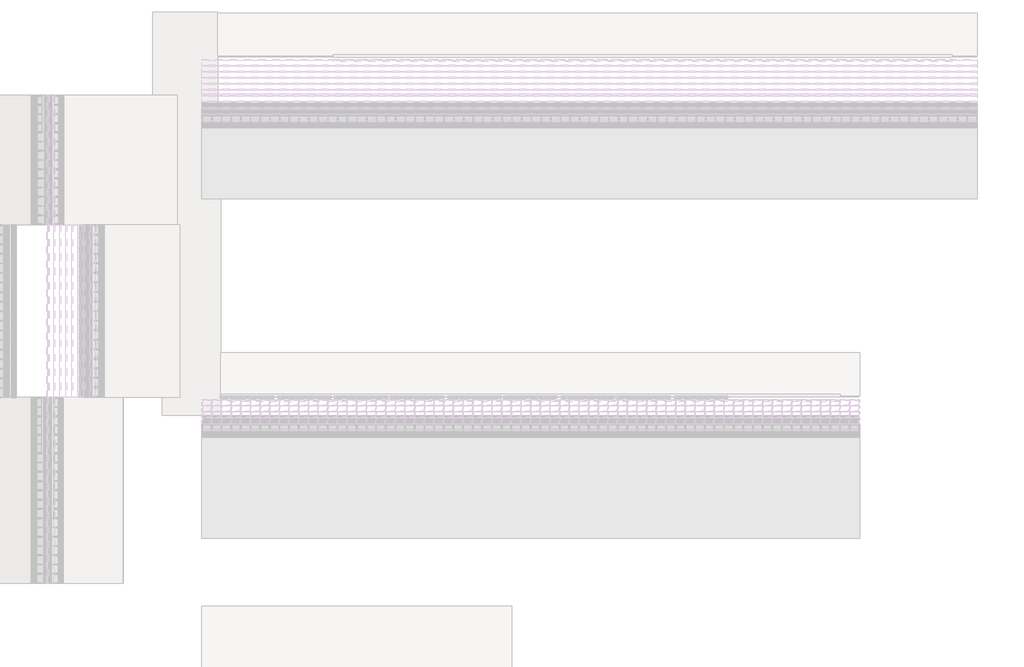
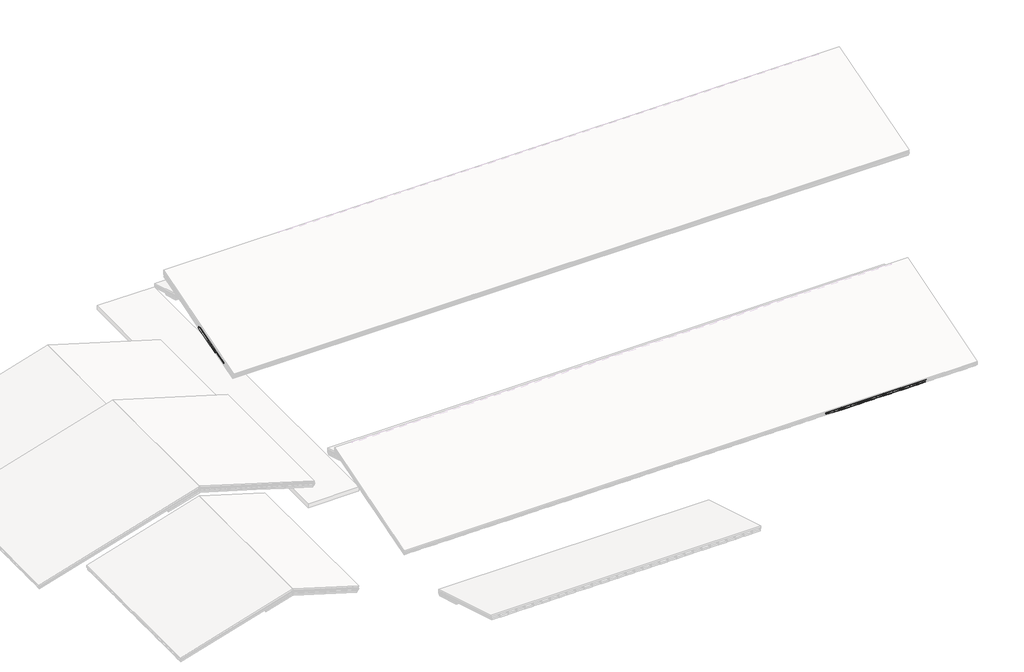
# One storey, part 43 of 57: 71 members, 53 plates.
"""IFC4 building model written with IfcOpenShell, lengths in millimetres."""

from ifc_helpers import new_model, si_unit, origin, place, context, project, spatial, transform, mapped, element, save
from components import rectangular_mullion_59984080, rectangular_mullion_e3e5c75d, rectangular_mullion_883ae41b, rectangular_mullion_caibro_e4384bba, empty_system_panel_vazio_178faf58, empty_system_panel_vazio_2c78850d, empty_system_panel_vazio_e755573b, empty_system_panel_vazio_700aa425

model = new_model("IFC4")

# Units and contexts
model_context = context("Model", 3, world=origin())
ifc_project = project(units=[si_unit("LENGTHUNIT", "METRE", prefix="MILLI")], contexts=[model_context])

# Site, building, storey
site = spatial("IfcSite", under=ifc_project)
building = spatial("IfcBuilding", under=site)
storey = spatial("IfcBuildingStorey", under=building, Name="Nível 2", Elevation=4100.0)

# Members
placement = place(None, origin())
rectangular_mullion_shape = rectangular_mullion_59984080(model_context)
element("IfcMember", 1, ObjectType="Rectangular Mullion : Ripa", at=placement, inside=storey, context=model_context, shape_type="MappedRepresentation", body=[
    mapped(rectangular_mullion_shape, transform((32226.4732298, 7422.2287521, 3376.7178042), x_axis=(0.0, 0.9578262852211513, 0.2873478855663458), y_axis=(0.0, 0.2873478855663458, -0.9578262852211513), z_axis=(-1.0, 0.0, 0.0))),
])
element("IfcMember", 2, ObjectType="Rectangular Mullion : Ripa", at=placement, inside=storey, context=model_context, shape_type="MappedRepresentation", body=[
    mapped(rectangular_mullion_shape, transform((32823.5279863, 7422.2287521, 3376.7178042), x_axis=(0.0, 0.9578262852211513, 0.2873478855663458), y_axis=(0.0, 0.2873478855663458, -0.9578262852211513), z_axis=(-1.0, 0.0, 0.0))),
])
element("IfcMember", 3, ObjectType="Rectangular Mullion : Ripa", at=placement, inside=storey, context=model_context, shape_type="MappedRepresentation", body=[
    mapped(rectangular_mullion_shape, transform((33420.5827427, 7422.2287521, 3376.7178042), x_axis=(0.0, 0.9578262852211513, 0.2873478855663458), y_axis=(0.0, 0.2873478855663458, -0.9578262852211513), z_axis=(-1.0, 0.0, 0.0))),
])
element("IfcMember", 4, ObjectType="Rectangular Mullion : Ripa", at=placement, inside=storey, context=model_context, shape_type="MappedRepresentation", body=[
    mapped(rectangular_mullion_shape, transform((34017.6374991, 7422.2287521, 3376.7178042), x_axis=(0.0, 0.9578262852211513, 0.2873478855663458), y_axis=(0.0, 0.2873478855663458, -0.9578262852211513), z_axis=(-1.0, 0.0, 0.0))),
])
element("IfcMember", 5, ObjectType="Rectangular Mullion : Ripa", at=placement, inside=storey, context=model_context, shape_type="MappedRepresentation", body=[
    mapped(rectangular_mullion_shape, transform((34614.6922555, 7422.2287521, 3376.7178042), x_axis=(0.0, 0.9578262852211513, 0.2873478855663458), y_axis=(0.0, 0.2873478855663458, -0.9578262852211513), z_axis=(-1.0, 0.0, 0.0))),
])
element("IfcMember", 6, ObjectType="Rectangular Mullion : Ripa", at=placement, inside=storey, context=model_context, shape_type="MappedRepresentation", body=[
    mapped(rectangular_mullion_shape, transform((35211.747012, 7422.2287521, 3376.7178042), x_axis=(0.0, 0.9578262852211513, 0.2873478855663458), y_axis=(0.0, 0.2873478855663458, -0.9578262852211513), z_axis=(-1.0, 0.0, 0.0))),
])
element("IfcMember", 7, ObjectType="Rectangular Mullion : Ripa", at=placement, inside=storey, context=model_context, shape_type="MappedRepresentation", body=[
    mapped(rectangular_mullion_shape, transform((35808.8017684, 7422.2287521, 3376.7178042), x_axis=(0.0, 0.9578262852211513, 0.2873478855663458), y_axis=(0.0, 0.2873478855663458, -0.9578262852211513), z_axis=(-1.0, 0.0, 0.0))),
])
element("IfcMember", 8, ObjectType="Rectangular Mullion : Ripa", at=placement, inside=storey, context=model_context, shape_type="MappedRepresentation", body=[
    mapped(rectangular_mullion_shape, transform((36405.8565248, 7422.2287521, 3376.7178042), x_axis=(0.0, 0.9578262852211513, 0.2873478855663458), y_axis=(0.0, 0.2873478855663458, -0.9578262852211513), z_axis=(-1.0, 0.0, 0.0))),
])
element("IfcMember", 9, ObjectType="Rectangular Mullion : Ripa", at=placement, inside=storey, context=model_context, shape_type="MappedRepresentation", body=[
    mapped(rectangular_mullion_shape, transform((37002.9112812, 7422.2287521, 3376.7178042), x_axis=(0.0, 0.9578262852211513, 0.2873478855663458), y_axis=(0.0, 0.2873478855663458, -0.9578262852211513), z_axis=(-1.0, 0.0, 0.0))),
])
element("IfcMember", 10, ObjectType="Rectangular Mullion : Ripa", at=placement, inside=storey, context=model_context, shape_type="MappedRepresentation", body=[
    mapped(rectangular_mullion_shape, transform((37599.9660377, 7422.2287521, 3376.7178042), x_axis=(0.0, 0.9578262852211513, 0.2873478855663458), y_axis=(0.0, 0.2873478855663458, -0.9578262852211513), z_axis=(-1.0, 0.0, 0.0))),
])
element("IfcMember", 11, ObjectType="Rectangular Mullion : Ripa", at=placement, inside=storey, context=model_context, shape_type="MappedRepresentation", body=[
    mapped(rectangular_mullion_shape, transform((38197.0207941, 7422.2287521, 3376.7178042), x_axis=(0.0, 0.9578262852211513, 0.2873478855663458), y_axis=(0.0, 0.2873478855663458, -0.9578262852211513), z_axis=(-1.0, 0.0, 0.0))),
])
element("IfcMember", 12, ObjectType="Rectangular Mullion : Ripa", at=placement, inside=storey, context=model_context, shape_type="MappedRepresentation", body=[
    mapped(rectangular_mullion_shape, transform((38794.0755505, 7422.2287521, 3376.7178042), x_axis=(0.0, 0.9578262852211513, 0.2873478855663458), y_axis=(0.0, 0.2873478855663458, -0.9578262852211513), z_axis=(-1.0, 0.0, 0.0))),
])
element("IfcMember", 13, ObjectType="Rectangular Mullion : Ripa", at=placement, inside=storey, context=model_context, shape_type="MappedRepresentation", body=[
    mapped(rectangular_mullion_shape, transform((32226.4732298, 7792.4060108, 3487.7709818), x_axis=(0.0, 0.9578262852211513, 0.2873478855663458), y_axis=(0.0, 0.2873478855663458, -0.9578262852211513), z_axis=(-1.0, 0.0, 0.0))),
])
element("IfcMember", 14, ObjectType="Rectangular Mullion : Ripa", at=placement, inside=storey, context=model_context, shape_type="MappedRepresentation", body=[
    mapped(rectangular_mullion_shape, transform((32823.5279863, 7792.4060108, 3487.7709818), x_axis=(0.0, 0.9578262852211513, 0.2873478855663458), y_axis=(0.0, 0.2873478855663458, -0.9578262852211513), z_axis=(-1.0, 0.0, 0.0))),
])
element("IfcMember", 15, ObjectType="Rectangular Mullion : Ripa", at=placement, inside=storey, context=model_context, shape_type="MappedRepresentation", body=[
    mapped(rectangular_mullion_shape, transform((33420.5827427, 7792.4060108, 3487.7709818), x_axis=(0.0, 0.9578262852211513, 0.2873478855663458), y_axis=(0.0, 0.2873478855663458, -0.9578262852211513), z_axis=(-1.0, 0.0, 0.0))),
])
element("IfcMember", 16, ObjectType="Rectangular Mullion : Ripa", at=placement, inside=storey, context=model_context, shape_type="MappedRepresentation", body=[
    mapped(rectangular_mullion_shape, transform((34017.6374991, 7792.4060108, 3487.7709818), x_axis=(0.0, 0.9578262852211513, 0.2873478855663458), y_axis=(0.0, 0.2873478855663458, -0.9578262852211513), z_axis=(-1.0, 0.0, 0.0))),
])
element("IfcMember", 17, ObjectType="Rectangular Mullion : Ripa", at=placement, inside=storey, context=model_context, shape_type="MappedRepresentation", body=[
    mapped(rectangular_mullion_shape, transform((34614.6922555, 7792.4060108, 3487.7709818), x_axis=(0.0, 0.9578262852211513, 0.2873478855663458), y_axis=(0.0, 0.2873478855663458, -0.9578262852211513), z_axis=(-1.0, 0.0, 0.0))),
])
element("IfcMember", 18, ObjectType="Rectangular Mullion : Ripa", at=placement, inside=storey, context=model_context, shape_type="MappedRepresentation", body=[
    mapped(rectangular_mullion_shape, transform((35211.747012, 7792.4060108, 3487.7709818), x_axis=(0.0, 0.9578262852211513, 0.2873478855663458), y_axis=(0.0, 0.2873478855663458, -0.9578262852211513), z_axis=(-1.0, 0.0, 0.0))),
])
element("IfcMember", 19, ObjectType="Rectangular Mullion : Ripa", at=placement, inside=storey, context=model_context, shape_type="MappedRepresentation", body=[
    mapped(rectangular_mullion_shape, transform((35808.8017684, 7792.4060108, 3487.7709818), x_axis=(0.0, 0.9578262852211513, 0.2873478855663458), y_axis=(0.0, 0.2873478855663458, -0.9578262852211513), z_axis=(-1.0, 0.0, 0.0))),
])
element("IfcMember", 20, ObjectType="Rectangular Mullion : Ripa", at=placement, inside=storey, context=model_context, shape_type="MappedRepresentation", body=[
    mapped(rectangular_mullion_shape, transform((36405.8565248, 7792.4060108, 3487.7709818), x_axis=(0.0, 0.9578262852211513, 0.2873478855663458), y_axis=(0.0, 0.2873478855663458, -0.9578262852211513), z_axis=(-1.0, 0.0, 0.0))),
])
element("IfcMember", 21, ObjectType="Rectangular Mullion : Ripa", at=placement, inside=storey, context=model_context, shape_type="MappedRepresentation", body=[
    mapped(rectangular_mullion_shape, transform((37002.9112812, 7792.4060108, 3487.7709818), x_axis=(0.0, 0.9578262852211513, 0.2873478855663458), y_axis=(0.0, 0.2873478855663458, -0.9578262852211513), z_axis=(-1.0, 0.0, 0.0))),
])
element("IfcMember", 22, ObjectType="Rectangular Mullion : Ripa", at=placement, inside=storey, context=model_context, shape_type="MappedRepresentation", body=[
    mapped(rectangular_mullion_shape, transform((37599.9660377, 7792.4060108, 3487.7709818), x_axis=(0.0, 0.9578262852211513, 0.2873478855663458), y_axis=(0.0, 0.2873478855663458, -0.9578262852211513), z_axis=(-1.0, 0.0, 0.0))),
])
element("IfcMember", 23, ObjectType="Rectangular Mullion : Ripa", at=placement, inside=storey, context=model_context, shape_type="MappedRepresentation", body=[
    mapped(rectangular_mullion_shape, transform((38197.0207941, 7792.4060108, 3487.7709818), x_axis=(0.0, 0.9578262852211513, 0.2873478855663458), y_axis=(0.0, 0.2873478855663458, -0.9578262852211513), z_axis=(-1.0, 0.0, 0.0))),
])
element("IfcMember", 24, ObjectType="Rectangular Mullion : Ripa", at=placement, inside=storey, context=model_context, shape_type="MappedRepresentation", body=[
    mapped(rectangular_mullion_shape, transform((38794.0755505, 7792.4060108, 3487.7709818), x_axis=(0.0, 0.9578262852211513, 0.2873478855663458), y_axis=(0.0, 0.2873478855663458, -0.9578262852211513), z_axis=(-1.0, 0.0, 0.0))),
])
rectangular_mullion_2_shape = rectangular_mullion_e3e5c75d(model_context)
element("IfcMember", 25, ObjectType="Rectangular Mullion : Ripa", at=placement, inside=storey, context=model_context, shape_type="MappedRepresentation", body=[
    mapped(rectangular_mullion_2_shape, transform((32201.4732298, 7004.1601792, 3251.2972323), x_axis=(0.0, -0.9578262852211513, -0.2873478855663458), y_axis=(0.0, 0.2873478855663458, -0.9578262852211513), z_axis=(1.0, 0.0, 0.0))),
])
element("IfcMember", 26, ObjectType="Rectangular Mullion : Ripa", at=placement, inside=storey, context=model_context, shape_type="MappedRepresentation", body=[
    mapped(rectangular_mullion_2_shape, transform((32798.5279863, 7004.1601792, 3251.2972323), x_axis=(0.0, -0.9578262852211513, -0.2873478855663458), y_axis=(0.0, 0.2873478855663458, -0.9578262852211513), z_axis=(1.0, 0.0, 0.0))),
])
element("IfcMember", 27, ObjectType="Rectangular Mullion : Ripa", at=placement, inside=storey, context=model_context, shape_type="MappedRepresentation", body=[
    mapped(rectangular_mullion_2_shape, transform((33395.5827427, 7004.1601792, 3251.2972323), x_axis=(0.0, -0.9578262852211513, -0.2873478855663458), y_axis=(0.0, 0.2873478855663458, -0.9578262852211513), z_axis=(1.0, 0.0, 0.0))),
])
element("IfcMember", 28, ObjectType="Rectangular Mullion : Ripa", at=placement, inside=storey, context=model_context, shape_type="MappedRepresentation", body=[
    mapped(rectangular_mullion_2_shape, transform((33992.6374991, 7004.1601792, 3251.2972323), x_axis=(0.0, -0.9578262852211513, -0.2873478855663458), y_axis=(0.0, 0.2873478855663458, -0.9578262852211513), z_axis=(1.0, 0.0, 0.0))),
])
element("IfcMember", 29, ObjectType="Rectangular Mullion : Ripa", at=placement, inside=storey, context=model_context, shape_type="MappedRepresentation", body=[
    mapped(rectangular_mullion_2_shape, transform((34589.6922555, 7004.1601792, 3251.2972323), x_axis=(0.0, -0.9578262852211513, -0.2873478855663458), y_axis=(0.0, 0.2873478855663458, -0.9578262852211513), z_axis=(1.0, 0.0, 0.0))),
])
element("IfcMember", 30, ObjectType="Rectangular Mullion : Ripa", at=placement, inside=storey, context=model_context, shape_type="MappedRepresentation", body=[
    mapped(rectangular_mullion_2_shape, transform((35186.747012, 7004.1601792, 3251.2972323), x_axis=(0.0, -0.9578262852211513, -0.2873478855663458), y_axis=(0.0, 0.2873478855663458, -0.9578262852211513), z_axis=(1.0, 0.0, 0.0))),
])
element("IfcMember", 31, ObjectType="Rectangular Mullion : Ripa", at=placement, inside=storey, context=model_context, shape_type="MappedRepresentation", body=[
    mapped(rectangular_mullion_2_shape, transform((35783.8017684, 7004.1601792, 3251.2972323), x_axis=(0.0, -0.9578262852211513, -0.2873478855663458), y_axis=(0.0, 0.2873478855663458, -0.9578262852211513), z_axis=(1.0, 0.0, 0.0))),
])
element("IfcMember", 32, ObjectType="Rectangular Mullion : Ripa", at=placement, inside=storey, context=model_context, shape_type="MappedRepresentation", body=[
    mapped(rectangular_mullion_2_shape, transform((36380.8565248, 7004.1601792, 3251.2972323), x_axis=(0.0, -0.9578262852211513, -0.2873478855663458), y_axis=(0.0, 0.2873478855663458, -0.9578262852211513), z_axis=(1.0, 0.0, 0.0))),
])
element("IfcMember", 33, ObjectType="Rectangular Mullion : Ripa", at=placement, inside=storey, context=model_context, shape_type="MappedRepresentation", body=[
    mapped(rectangular_mullion_2_shape, transform((36977.9112812, 7004.1601792, 3251.2972323), x_axis=(0.0, -0.9578262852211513, -0.2873478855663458), y_axis=(0.0, 0.2873478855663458, -0.9578262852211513), z_axis=(1.0, 0.0, 0.0))),
])
element("IfcMember", 34, ObjectType="Rectangular Mullion : Ripa", at=placement, inside=storey, context=model_context, shape_type="MappedRepresentation", body=[
    mapped(rectangular_mullion_2_shape, transform((37574.9660377, 7004.1601792, 3251.2972323), x_axis=(0.0, -0.9578262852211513, -0.2873478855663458), y_axis=(0.0, 0.2873478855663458, -0.9578262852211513), z_axis=(1.0, 0.0, 0.0))),
])
element("IfcMember", 35, ObjectType="Rectangular Mullion : Ripa", at=placement, inside=storey, context=model_context, shape_type="MappedRepresentation", body=[
    mapped(rectangular_mullion_2_shape, transform((38172.0207941, 7004.1601792, 3251.2972323), x_axis=(0.0, -0.9578262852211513, -0.2873478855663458), y_axis=(0.0, 0.2873478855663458, -0.9578262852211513), z_axis=(1.0, 0.0, 0.0))),
])
element("IfcMember", 36, ObjectType="Rectangular Mullion : Ripa", at=placement, inside=storey, context=model_context, shape_type="MappedRepresentation", body=[
    mapped(rectangular_mullion_2_shape, transform((38769.0755505, 7004.1601792, 3251.2972323), x_axis=(0.0, -0.9578262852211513, -0.2873478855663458), y_axis=(0.0, 0.2873478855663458, -0.9578262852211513), z_axis=(1.0, 0.0, 0.0))),
])
rectangular_mullion_3_shape = rectangular_mullion_883ae41b(model_context)
element("IfcMember", 37, ObjectType="Rectangular Mullion : Terça", at=placement, inside=storey, context=model_context, shape_type="MappedRepresentation", body=[
    mapped(rectangular_mullion_3_shape, transform((32201.4732298, 7004.1601792, 3188.6553932), x_axis=(0.0, -0.9578262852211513, -0.2873478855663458), y_axis=(0.0, 0.2873478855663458, -0.9578262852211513), z_axis=(1.0, 0.0, 0.0))),
])
element("IfcMember", 38, ObjectType="Rectangular Mullion : Terça", at=placement, inside=storey, context=model_context, shape_type="MappedRepresentation", body=[
    mapped(rectangular_mullion_3_shape, transform((32798.5279863, 7004.1601792, 3188.6553932), x_axis=(0.0, -0.9578262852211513, -0.2873478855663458), y_axis=(0.0, 0.2873478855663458, -0.9578262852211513), z_axis=(1.0, 0.0, 0.0))),
])
element("IfcMember", 39, ObjectType="Rectangular Mullion : Terça", at=placement, inside=storey, context=model_context, shape_type="MappedRepresentation", body=[
    mapped(rectangular_mullion_3_shape, transform((33395.5827427, 7004.1601792, 3188.6553932), x_axis=(0.0, -0.9578262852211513, -0.2873478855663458), y_axis=(0.0, 0.2873478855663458, -0.9578262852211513), z_axis=(1.0, 0.0, 0.0))),
])
element("IfcMember", 40, ObjectType="Rectangular Mullion : Terça", at=placement, inside=storey, context=model_context, shape_type="MappedRepresentation", body=[
    mapped(rectangular_mullion_3_shape, transform((33992.6374991, 7004.1601792, 3188.6553932), x_axis=(0.0, -0.9578262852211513, -0.2873478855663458), y_axis=(0.0, 0.2873478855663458, -0.9578262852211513), z_axis=(1.0, 0.0, 0.0))),
])
element("IfcMember", 41, ObjectType="Rectangular Mullion : Terça", at=placement, inside=storey, context=model_context, shape_type="MappedRepresentation", body=[
    mapped(rectangular_mullion_3_shape, transform((34589.6922555, 7004.1601792, 3188.6553932), x_axis=(0.0, -0.9578262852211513, -0.2873478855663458), y_axis=(0.0, 0.2873478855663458, -0.9578262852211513), z_axis=(1.0, 0.0, 0.0))),
])
element("IfcMember", 42, ObjectType="Rectangular Mullion : Terça", at=placement, inside=storey, context=model_context, shape_type="MappedRepresentation", body=[
    mapped(rectangular_mullion_3_shape, transform((35186.747012, 7004.1601792, 3188.6553932), x_axis=(0.0, -0.9578262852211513, -0.2873478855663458), y_axis=(0.0, 0.2873478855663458, -0.9578262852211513), z_axis=(1.0, 0.0, 0.0))),
])
element("IfcMember", 43, ObjectType="Rectangular Mullion : Terça", at=placement, inside=storey, context=model_context, shape_type="MappedRepresentation", body=[
    mapped(rectangular_mullion_3_shape, transform((35783.8017684, 7004.1601792, 3188.6553932), x_axis=(0.0, -0.9578262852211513, -0.2873478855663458), y_axis=(0.0, 0.2873478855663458, -0.9578262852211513), z_axis=(1.0, 0.0, 0.0))),
])
element("IfcMember", 44, ObjectType="Rectangular Mullion : Terça", at=placement, inside=storey, context=model_context, shape_type="MappedRepresentation", body=[
    mapped(rectangular_mullion_3_shape, transform((36380.8565248, 7004.1601792, 3188.6553932), x_axis=(0.0, -0.9578262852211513, -0.2873478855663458), y_axis=(0.0, 0.2873478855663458, -0.9578262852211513), z_axis=(1.0, 0.0, 0.0))),
])
element("IfcMember", 45, ObjectType="Rectangular Mullion : Terça", at=placement, inside=storey, context=model_context, shape_type="MappedRepresentation", body=[
    mapped(rectangular_mullion_3_shape, transform((36977.9112812, 7004.1601792, 3188.6553932), x_axis=(0.0, -0.9578262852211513, -0.2873478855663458), y_axis=(0.0, 0.2873478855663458, -0.9578262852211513), z_axis=(1.0, 0.0, 0.0))),
])
element("IfcMember", 46, ObjectType="Rectangular Mullion : Terça", at=placement, inside=storey, context=model_context, shape_type="MappedRepresentation", body=[
    mapped(rectangular_mullion_3_shape, transform((37574.9660377, 7004.1601792, 3188.6553932), x_axis=(0.0, -0.9578262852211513, -0.2873478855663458), y_axis=(0.0, 0.2873478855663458, -0.9578262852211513), z_axis=(1.0, 0.0, 0.0))),
])
element("IfcMember", 47, ObjectType="Rectangular Mullion : Terça", at=placement, inside=storey, context=model_context, shape_type="MappedRepresentation", body=[
    mapped(rectangular_mullion_3_shape, transform((38172.0207941, 7004.1601792, 3188.6553932), x_axis=(0.0, -0.9578262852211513, -0.2873478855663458), y_axis=(0.0, 0.2873478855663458, -0.9578262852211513), z_axis=(1.0, 0.0, 0.0))),
])
rectangular_mullion_caibro_shape = rectangular_mullion_caibro_e4384bba(model_context)
element("IfcMember", 48, ObjectType="Rectangular Mullion : Caibro", at=placement, inside=storey, context=model_context, shape_type="MappedRepresentation", body=[
    mapped(rectangular_mullion_caibro_shape, transform((32201.4732298, 7422.2287521, 3376.7178042), x_axis=(1.0, 0.0, 0.0), y_axis=(0.0, 0.2873478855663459, -0.9578262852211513), z_axis=(0.0, 0.9578262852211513, 0.2873478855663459))),
])
element("IfcMember", 49, ObjectType="Rectangular Mullion : Caibro", at=placement, inside=storey, context=model_context, shape_type="MappedRepresentation", body=[
    mapped(rectangular_mullion_caibro_shape, transform((32798.5279863, 7422.2287521, 3376.7178042), x_axis=(1.0, 0.0, 0.0), y_axis=(0.0, 0.2873478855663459, -0.9578262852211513), z_axis=(0.0, 0.9578262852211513, 0.2873478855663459))),
])
element("IfcMember", 50, ObjectType="Rectangular Mullion : Caibro", at=placement, inside=storey, context=model_context, shape_type="MappedRepresentation", body=[
    mapped(rectangular_mullion_caibro_shape, transform((33395.5827427, 7422.2287521, 3376.7178042), x_axis=(1.0, 0.0, 0.0), y_axis=(0.0, 0.2873478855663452, -0.9578262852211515), z_axis=(0.0, 0.9578262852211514, 0.28734788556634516))),
])
element("IfcMember", 51, ObjectType="Rectangular Mullion : Caibro", at=placement, inside=storey, context=model_context, shape_type="MappedRepresentation", body=[
    mapped(rectangular_mullion_caibro_shape, transform((33992.6374991, 7422.2287521, 3376.7178042), x_axis=(1.0, 0.0, 0.0), y_axis=(0.0, 0.2873478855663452, -0.9578262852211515), z_axis=(0.0, 0.9578262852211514, 0.28734788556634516))),
])
element("IfcMember", 52, ObjectType="Rectangular Mullion : Caibro", at=placement, inside=storey, context=model_context, shape_type="MappedRepresentation", body=[
    mapped(rectangular_mullion_caibro_shape, transform((34589.6922555, 7422.2287521, 3376.7178042), x_axis=(1.0, 0.0, 0.0), y_axis=(0.0, 0.2873478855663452, -0.9578262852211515), z_axis=(0.0, 0.9578262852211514, 0.28734788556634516))),
])
element("IfcMember", 53, ObjectType="Rectangular Mullion : Caibro", at=placement, inside=storey, context=model_context, shape_type="MappedRepresentation", body=[
    mapped(rectangular_mullion_caibro_shape, transform((35186.747012, 7422.2287521, 3376.7178042), x_axis=(1.0, 0.0, 0.0), y_axis=(0.0, 0.2873478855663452, -0.9578262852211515), z_axis=(0.0, 0.9578262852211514, 0.28734788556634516))),
])
element("IfcMember", 54, ObjectType="Rectangular Mullion : Caibro", at=placement, inside=storey, context=model_context, shape_type="MappedRepresentation", body=[
    mapped(rectangular_mullion_caibro_shape, transform((35783.8017684, 7422.2287521, 3376.7178042), x_axis=(1.0, 0.0, 0.0), y_axis=(0.0, 0.2873478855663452, -0.9578262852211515), z_axis=(0.0, 0.9578262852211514, 0.28734788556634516))),
])
element("IfcMember", 55, ObjectType="Rectangular Mullion : Caibro", at=placement, inside=storey, context=model_context, shape_type="MappedRepresentation", body=[
    mapped(rectangular_mullion_caibro_shape, transform((36380.8565248, 7422.2287521, 3376.7178042), x_axis=(1.0, 0.0, 0.0), y_axis=(0.0, 0.2873478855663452, -0.9578262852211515), z_axis=(0.0, 0.9578262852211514, 0.28734788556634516))),
])
element("IfcMember", 56, ObjectType="Rectangular Mullion : Caibro", at=placement, inside=storey, context=model_context, shape_type="MappedRepresentation", body=[
    mapped(rectangular_mullion_caibro_shape, transform((36977.9112812, 7422.2287521, 3376.7178042), x_axis=(1.0, 0.0, 0.0), y_axis=(0.0, 0.2873478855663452, -0.9578262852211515), z_axis=(0.0, 0.9578262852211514, 0.28734788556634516))),
])
element("IfcMember", 57, ObjectType="Rectangular Mullion : Caibro", at=placement, inside=storey, context=model_context, shape_type="MappedRepresentation", body=[
    mapped(rectangular_mullion_caibro_shape, transform((37574.9660377, 7422.2287521, 3376.7178042), x_axis=(1.0, 0.0, 0.0), y_axis=(0.0, 0.2873478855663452, -0.9578262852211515), z_axis=(0.0, 0.9578262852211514, 0.28734788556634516))),
])
element("IfcMember", 58, ObjectType="Rectangular Mullion : Caibro", at=placement, inside=storey, context=model_context, shape_type="MappedRepresentation", body=[
    mapped(rectangular_mullion_caibro_shape, transform((38172.0207941, 7422.2287521, 3376.7178042), x_axis=(1.0, 0.0, 0.0), y_axis=(0.0, 0.2873478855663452, -0.9578262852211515), z_axis=(0.0, 0.9578262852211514, 0.28734788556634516))),
])
element("IfcMember", 59, ObjectType="Rectangular Mullion : Caibro", at=placement, inside=storey, context=model_context, shape_type="MappedRepresentation", body=[
    mapped(rectangular_mullion_caibro_shape, transform((38769.0755505, 7422.2287521, 3376.7178042), x_axis=(1.0, 0.0, 0.0), y_axis=(0.0, 0.2873478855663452, -0.9578262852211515), z_axis=(0.0, 0.9578262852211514, 0.28734788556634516))),
])
element("IfcMember", 60, ObjectType="Rectangular Mullion : Caibro", at=placement, inside=storey, context=model_context, shape_type="MappedRepresentation", body=[
    mapped(rectangular_mullion_caibro_shape, transform((32201.4732298, 7792.4060108, 3487.7709818), x_axis=(1.0, 0.0, 0.0), y_axis=(0.0, 0.2873478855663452, -0.9578262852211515), z_axis=(0.0, 0.9578262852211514, 0.28734788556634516))),
])
element("IfcMember", 61, ObjectType="Rectangular Mullion : Caibro", at=placement, inside=storey, context=model_context, shape_type="MappedRepresentation", body=[
    mapped(rectangular_mullion_caibro_shape, transform((32798.5279863, 7792.4060108, 3487.7709818), x_axis=(1.0, 0.0, 0.0), y_axis=(0.0, 0.2873478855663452, -0.9578262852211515), z_axis=(0.0, 0.9578262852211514, 0.28734788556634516))),
])
element("IfcMember", 62, ObjectType="Rectangular Mullion : Caibro", at=placement, inside=storey, context=model_context, shape_type="MappedRepresentation", body=[
    mapped(rectangular_mullion_caibro_shape, transform((33395.5827427, 7792.4060108, 3487.7709818), x_axis=(1.0, 0.0, 0.0), y_axis=(0.0, 0.2873478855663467, -0.9578262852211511), z_axis=(0.0, 0.9578262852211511, 0.2873478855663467))),
])
element("IfcMember", 63, ObjectType="Rectangular Mullion : Caibro", at=placement, inside=storey, context=model_context, shape_type="MappedRepresentation", body=[
    mapped(rectangular_mullion_caibro_shape, transform((33992.6374991, 7792.4060108, 3487.7709818), x_axis=(1.0, 0.0, 0.0), y_axis=(0.0, 0.2873478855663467, -0.9578262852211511), z_axis=(0.0, 0.9578262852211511, 0.2873478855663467))),
])
element("IfcMember", 64, ObjectType="Rectangular Mullion : Caibro", at=placement, inside=storey, context=model_context, shape_type="MappedRepresentation", body=[
    mapped(rectangular_mullion_caibro_shape, transform((34589.6922555, 7792.4060108, 3487.7709818), x_axis=(1.0, 0.0, 0.0), y_axis=(0.0, 0.2873478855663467, -0.9578262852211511), z_axis=(0.0, 0.9578262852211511, 0.2873478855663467))),
])
element("IfcMember", 65, ObjectType="Rectangular Mullion : Caibro", at=placement, inside=storey, context=model_context, shape_type="MappedRepresentation", body=[
    mapped(rectangular_mullion_caibro_shape, transform((35186.747012, 7792.4060108, 3487.7709818), x_axis=(1.0, 0.0, 0.0), y_axis=(0.0, 0.2873478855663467, -0.9578262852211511), z_axis=(0.0, 0.9578262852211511, 0.2873478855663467))),
])
element("IfcMember", 66, ObjectType="Rectangular Mullion : Caibro", at=placement, inside=storey, context=model_context, shape_type="MappedRepresentation", body=[
    mapped(rectangular_mullion_caibro_shape, transform((35783.8017684, 7792.4060108, 3487.7709818), x_axis=(1.0, 0.0, 0.0), y_axis=(0.0, 0.2873478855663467, -0.9578262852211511), z_axis=(0.0, 0.9578262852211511, 0.2873478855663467))),
])
element("IfcMember", 67, ObjectType="Rectangular Mullion : Caibro", at=placement, inside=storey, context=model_context, shape_type="MappedRepresentation", body=[
    mapped(rectangular_mullion_caibro_shape, transform((36380.8565248, 7792.4060108, 3487.7709818), x_axis=(1.0, 0.0, 0.0), y_axis=(0.0, 0.2873478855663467, -0.9578262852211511), z_axis=(0.0, 0.9578262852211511, 0.2873478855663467))),
])
element("IfcMember", 68, ObjectType="Rectangular Mullion : Caibro", at=placement, inside=storey, context=model_context, shape_type="MappedRepresentation", body=[
    mapped(rectangular_mullion_caibro_shape, transform((36977.9112812, 7792.4060108, 3487.7709818), x_axis=(1.0, 0.0, 0.0), y_axis=(0.0, 0.2873478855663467, -0.9578262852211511), z_axis=(0.0, 0.9578262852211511, 0.2873478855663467))),
])
element("IfcMember", 69, ObjectType="Rectangular Mullion : Caibro", at=placement, inside=storey, context=model_context, shape_type="MappedRepresentation", body=[
    mapped(rectangular_mullion_caibro_shape, transform((37574.9660377, 7792.4060108, 3487.7709818), x_axis=(1.0, 0.0, 0.0), y_axis=(0.0, 0.2873478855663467, -0.9578262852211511), z_axis=(0.0, 0.9578262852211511, 0.2873478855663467))),
])
element("IfcMember", 70, ObjectType="Rectangular Mullion : Caibro", at=placement, inside=storey, context=model_context, shape_type="MappedRepresentation", body=[
    mapped(rectangular_mullion_caibro_shape, transform((38172.0207941, 7792.4060108, 3487.7709818), x_axis=(1.0, 0.0, 0.0), y_axis=(0.0, 0.2873478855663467, -0.9578262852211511), z_axis=(0.0, 0.9578262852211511, 0.2873478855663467))),
])
element("IfcMember", 71, ObjectType="Rectangular Mullion : Caibro", at=placement, inside=storey, context=model_context, shape_type="MappedRepresentation", body=[
    mapped(rectangular_mullion_caibro_shape, transform((38769.0755505, 7792.4060108, 3487.7709818), x_axis=(1.0, 0.0, 0.0), y_axis=(0.0, 0.2873478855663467, -0.9578262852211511), z_axis=(0.0, 0.9578262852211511, 0.2873478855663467))),
])

# Plates
empty_system_panel_vazio_shape = empty_system_panel_vazio_178faf58(model_context)
element("IfcPlate", 72, ObjectType="Empty System Panel : Vazio", at=placement, inside=storey, context=model_context, shape_type="MappedRepresentation", body=[
    mapped(empty_system_panel_vazio_shape, transform((32500.000608, 7052.0514934, 3265.6646266), x_axis=(1.0, 0.0, 0.0), y_axis=(0.0, 0.2873478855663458, -0.9578262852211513), z_axis=(0.0, 0.9578262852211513, 0.2873478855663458))),
])
element("IfcPlate", 73, ObjectType="Empty System Panel : Vazio", at=placement, inside=storey, context=model_context, shape_type="MappedRepresentation", body=[
    mapped(empty_system_panel_vazio_shape, transform((33097.0553645, 7052.0514934, 3265.6646266), x_axis=(1.0, 0.0, 0.0), y_axis=(0.0, 0.2873478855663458, -0.9578262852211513), z_axis=(0.0, 0.9578262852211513, 0.2873478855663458))),
])
element("IfcPlate", 74, ObjectType="Empty System Panel : Vazio", at=placement, inside=storey, context=model_context, shape_type="MappedRepresentation", body=[
    mapped(empty_system_panel_vazio_shape, transform((33694.1101209, 7052.0514934, 3265.6646266), x_axis=(1.0, 0.0, 0.0), y_axis=(0.0, 0.2873478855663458, -0.9578262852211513), z_axis=(0.0, 0.9578262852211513, 0.2873478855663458))),
])
element("IfcPlate", 75, ObjectType="Empty System Panel : Vazio", at=placement, inside=storey, context=model_context, shape_type="MappedRepresentation", body=[
    mapped(empty_system_panel_vazio_shape, transform((34291.1648773, 7052.0514934, 3265.6646266), x_axis=(1.0, 0.0, 0.0), y_axis=(0.0, 0.2873478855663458, -0.9578262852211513), z_axis=(0.0, 0.9578262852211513, 0.2873478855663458))),
])
element("IfcPlate", 76, ObjectType="Empty System Panel : Vazio", at=placement, inside=storey, context=model_context, shape_type="MappedRepresentation", body=[
    mapped(empty_system_panel_vazio_shape, transform((34888.2196337, 7052.0514934, 3265.6646266), x_axis=(1.0, 0.0, 0.0), y_axis=(0.0, 0.2873478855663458, -0.9578262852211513), z_axis=(0.0, 0.9578262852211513, 0.2873478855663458))),
])
element("IfcPlate", 77, ObjectType="Empty System Panel : Vazio", at=placement, inside=storey, context=model_context, shape_type="MappedRepresentation", body=[
    mapped(empty_system_panel_vazio_shape, transform((35485.2743902, 7052.0514934, 3265.6646266), x_axis=(1.0, 0.0, 0.0), y_axis=(0.0, 0.2873478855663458, -0.9578262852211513), z_axis=(0.0, 0.9578262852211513, 0.2873478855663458))),
])
element("IfcPlate", 78, ObjectType="Empty System Panel : Vazio", at=placement, inside=storey, context=model_context, shape_type="MappedRepresentation", body=[
    mapped(empty_system_panel_vazio_shape, transform((36082.3291466, 7052.0514934, 3265.6646266), x_axis=(1.0, 0.0, 0.0), y_axis=(0.0, 0.2873478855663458, -0.9578262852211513), z_axis=(0.0, 0.9578262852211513, 0.2873478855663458))),
])
element("IfcPlate", 79, ObjectType="Empty System Panel : Vazio", at=placement, inside=storey, context=model_context, shape_type="MappedRepresentation", body=[
    mapped(empty_system_panel_vazio_shape, transform((36679.383903, 7052.0514934, 3265.6646266), x_axis=(1.0, 0.0, 0.0), y_axis=(0.0, 0.2873478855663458, -0.9578262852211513), z_axis=(0.0, 0.9578262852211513, 0.2873478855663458))),
])
element("IfcPlate", 80, ObjectType="Empty System Panel : Vazio", at=placement, inside=storey, context=model_context, shape_type="MappedRepresentation", body=[
    mapped(empty_system_panel_vazio_shape, transform((37276.4386594, 7052.0514934, 3265.6646266), x_axis=(1.0, 0.0, 0.0), y_axis=(0.0, 0.2873478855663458, -0.9578262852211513), z_axis=(0.0, 0.9578262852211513, 0.2873478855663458))),
])
element("IfcPlate", 81, ObjectType="Empty System Panel : Vazio", at=placement, inside=storey, context=model_context, shape_type="MappedRepresentation", body=[
    mapped(empty_system_panel_vazio_shape, transform((37873.4934159, 7052.0514934, 3265.6646266), x_axis=(1.0, 0.0, 0.0), y_axis=(0.0, 0.2873478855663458, -0.9578262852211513), z_axis=(0.0, 0.9578262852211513, 0.2873478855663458))),
])
element("IfcPlate", 82, ObjectType="Empty System Panel : Vazio", at=placement, inside=storey, context=model_context, shape_type="MappedRepresentation", body=[
    mapped(empty_system_panel_vazio_shape, transform((38470.5481723, 7052.0514934, 3265.6646266), x_axis=(1.0, 0.0, 0.0), y_axis=(0.0, 0.2873478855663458, -0.9578262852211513), z_axis=(0.0, 0.9578262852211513, 0.2873478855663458))),
])
element("IfcPlate", 83, ObjectType="Empty System Panel : Vazio", at=placement, inside=storey, context=model_context, shape_type="MappedRepresentation", body=[
    mapped(empty_system_panel_vazio_shape, transform((32500.000608, 7422.2287521, 3376.7178042), x_axis=(1.0, 0.0, 0.0), y_axis=(0.0, 0.2873478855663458, -0.9578262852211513), z_axis=(0.0, 0.9578262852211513, 0.2873478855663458))),
])
element("IfcPlate", 84, ObjectType="Empty System Panel : Vazio", at=placement, inside=storey, context=model_context, shape_type="MappedRepresentation", body=[
    mapped(empty_system_panel_vazio_shape, transform((33097.0553645, 7422.2287521, 3376.7178042), x_axis=(1.0, 0.0, 0.0), y_axis=(0.0, 0.2873478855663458, -0.9578262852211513), z_axis=(0.0, 0.9578262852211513, 0.2873478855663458))),
])
element("IfcPlate", 85, ObjectType="Empty System Panel : Vazio", at=placement, inside=storey, context=model_context, shape_type="MappedRepresentation", body=[
    mapped(empty_system_panel_vazio_shape, transform((33694.1101209, 7422.2287521, 3376.7178042), x_axis=(1.0, 0.0, 0.0), y_axis=(0.0, 0.2873478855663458, -0.9578262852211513), z_axis=(0.0, 0.9578262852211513, 0.2873478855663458))),
])
element("IfcPlate", 86, ObjectType="Empty System Panel : Vazio", at=placement, inside=storey, context=model_context, shape_type="MappedRepresentation", body=[
    mapped(empty_system_panel_vazio_shape, transform((34291.1648773, 7422.2287521, 3376.7178042), x_axis=(1.0, 0.0, 0.0), y_axis=(0.0, 0.2873478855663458, -0.9578262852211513), z_axis=(0.0, 0.9578262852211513, 0.2873478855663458))),
])
element("IfcPlate", 87, ObjectType="Empty System Panel : Vazio", at=placement, inside=storey, context=model_context, shape_type="MappedRepresentation", body=[
    mapped(empty_system_panel_vazio_shape, transform((34888.2196337, 7422.2287521, 3376.7178042), x_axis=(1.0, 0.0, 0.0), y_axis=(0.0, 0.2873478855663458, -0.9578262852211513), z_axis=(0.0, 0.9578262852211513, 0.2873478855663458))),
])
element("IfcPlate", 88, ObjectType="Empty System Panel : Vazio", at=placement, inside=storey, context=model_context, shape_type="MappedRepresentation", body=[
    mapped(empty_system_panel_vazio_shape, transform((35485.2743902, 7422.2287521, 3376.7178042), x_axis=(1.0, 0.0, 0.0), y_axis=(0.0, 0.2873478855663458, -0.9578262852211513), z_axis=(0.0, 0.9578262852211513, 0.2873478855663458))),
])
element("IfcPlate", 89, ObjectType="Empty System Panel : Vazio", at=placement, inside=storey, context=model_context, shape_type="MappedRepresentation", body=[
    mapped(empty_system_panel_vazio_shape, transform((36082.3291466, 7422.2287521, 3376.7178042), x_axis=(1.0, 0.0, 0.0), y_axis=(0.0, 0.2873478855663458, -0.9578262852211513), z_axis=(0.0, 0.9578262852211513, 0.2873478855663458))),
])
element("IfcPlate", 90, ObjectType="Empty System Panel : Vazio", at=placement, inside=storey, context=model_context, shape_type="MappedRepresentation", body=[
    mapped(empty_system_panel_vazio_shape, transform((36679.383903, 7422.2287521, 3376.7178042), x_axis=(1.0, 0.0, 0.0), y_axis=(0.0, 0.2873478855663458, -0.9578262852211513), z_axis=(0.0, 0.9578262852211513, 0.2873478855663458))),
])
element("IfcPlate", 91, ObjectType="Empty System Panel : Vazio", at=placement, inside=storey, context=model_context, shape_type="MappedRepresentation", body=[
    mapped(empty_system_panel_vazio_shape, transform((37276.4386594, 7422.2287521, 3376.7178042), x_axis=(1.0, 0.0, 0.0), y_axis=(0.0, 0.2873478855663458, -0.9578262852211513), z_axis=(0.0, 0.9578262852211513, 0.2873478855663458))),
])
element("IfcPlate", 92, ObjectType="Empty System Panel : Vazio", at=placement, inside=storey, context=model_context, shape_type="MappedRepresentation", body=[
    mapped(empty_system_panel_vazio_shape, transform((37873.4934159, 7422.2287521, 3376.7178042), x_axis=(1.0, 0.0, 0.0), y_axis=(0.0, 0.2873478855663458, -0.9578262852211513), z_axis=(0.0, 0.9578262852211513, 0.2873478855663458))),
])
element("IfcPlate", 93, ObjectType="Empty System Panel : Vazio", at=placement, inside=storey, context=model_context, shape_type="MappedRepresentation", body=[
    mapped(empty_system_panel_vazio_shape, transform((38470.5481723, 7422.2287521, 3376.7178042), x_axis=(1.0, 0.0, 0.0), y_axis=(0.0, 0.2873478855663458, -0.9578262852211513), z_axis=(0.0, 0.9578262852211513, 0.2873478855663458))),
])
element("IfcPlate", 94, ObjectType="Empty System Panel : Vazio", at=placement, inside=storey, context=model_context, shape_type="MappedRepresentation", body=[
    mapped(empty_system_panel_vazio_shape, transform((32500.000608, 7792.4060108, 3487.7709818), x_axis=(1.0, 0.0, 0.0), y_axis=(0.0, 0.2873478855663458, -0.9578262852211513), z_axis=(0.0, 0.9578262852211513, 0.2873478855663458))),
])
element("IfcPlate", 95, ObjectType="Empty System Panel : Vazio", at=placement, inside=storey, context=model_context, shape_type="MappedRepresentation", body=[
    mapped(empty_system_panel_vazio_shape, transform((33097.0553645, 7792.4060108, 3487.7709818), x_axis=(1.0, 0.0, 0.0), y_axis=(0.0, 0.2873478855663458, -0.9578262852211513), z_axis=(0.0, 0.9578262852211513, 0.2873478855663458))),
])
element("IfcPlate", 96, ObjectType="Empty System Panel : Vazio", at=placement, inside=storey, context=model_context, shape_type="MappedRepresentation", body=[
    mapped(empty_system_panel_vazio_shape, transform((33694.1101209, 7792.4060108, 3487.7709818), x_axis=(1.0, 0.0, 0.0), y_axis=(0.0, 0.2873478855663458, -0.9578262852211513), z_axis=(0.0, 0.9578262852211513, 0.2873478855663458))),
])
element("IfcPlate", 97, ObjectType="Empty System Panel : Vazio", at=placement, inside=storey, context=model_context, shape_type="MappedRepresentation", body=[
    mapped(empty_system_panel_vazio_shape, transform((34291.1648773, 7792.4060108, 3487.7709818), x_axis=(1.0, 0.0, 0.0), y_axis=(0.0, 0.2873478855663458, -0.9578262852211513), z_axis=(0.0, 0.9578262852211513, 0.2873478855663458))),
])
element("IfcPlate", 98, ObjectType="Empty System Panel : Vazio", at=placement, inside=storey, context=model_context, shape_type="MappedRepresentation", body=[
    mapped(empty_system_panel_vazio_shape, transform((34888.2196337, 7792.4060108, 3487.7709818), x_axis=(1.0, 0.0, 0.0), y_axis=(0.0, 0.2873478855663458, -0.9578262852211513), z_axis=(0.0, 0.9578262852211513, 0.2873478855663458))),
])
element("IfcPlate", 99, ObjectType="Empty System Panel : Vazio", at=placement, inside=storey, context=model_context, shape_type="MappedRepresentation", body=[
    mapped(empty_system_panel_vazio_shape, transform((35485.2743902, 7792.4060108, 3487.7709818), x_axis=(1.0, 0.0, 0.0), y_axis=(0.0, 0.2873478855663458, -0.9578262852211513), z_axis=(0.0, 0.9578262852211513, 0.2873478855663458))),
])
element("IfcPlate", 100, ObjectType="Empty System Panel : Vazio", at=placement, inside=storey, context=model_context, shape_type="MappedRepresentation", body=[
    mapped(empty_system_panel_vazio_shape, transform((36082.3291466, 7792.4060108, 3487.7709818), x_axis=(1.0, 0.0, 0.0), y_axis=(0.0, 0.2873478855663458, -0.9578262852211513), z_axis=(0.0, 0.9578262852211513, 0.2873478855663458))),
])
element("IfcPlate", 101, ObjectType="Empty System Panel : Vazio", at=placement, inside=storey, context=model_context, shape_type="MappedRepresentation", body=[
    mapped(empty_system_panel_vazio_shape, transform((36679.383903, 7792.4060108, 3487.7709818), x_axis=(1.0, 0.0, 0.0), y_axis=(0.0, 0.2873478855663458, -0.9578262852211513), z_axis=(0.0, 0.9578262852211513, 0.2873478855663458))),
])
element("IfcPlate", 102, ObjectType="Empty System Panel : Vazio", at=placement, inside=storey, context=model_context, shape_type="MappedRepresentation", body=[
    mapped(empty_system_panel_vazio_shape, transform((37276.4386594, 7792.4060108, 3487.7709818), x_axis=(1.0, 0.0, 0.0), y_axis=(0.0, 0.2873478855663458, -0.9578262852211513), z_axis=(0.0, 0.9578262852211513, 0.2873478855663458))),
])
element("IfcPlate", 103, ObjectType="Empty System Panel : Vazio", at=placement, inside=storey, context=model_context, shape_type="MappedRepresentation", body=[
    mapped(empty_system_panel_vazio_shape, transform((37873.4934159, 7792.4060108, 3487.7709818), x_axis=(1.0, 0.0, 0.0), y_axis=(0.0, 0.2873478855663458, -0.9578262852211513), z_axis=(0.0, 0.9578262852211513, 0.2873478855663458))),
])
element("IfcPlate", 104, ObjectType="Empty System Panel : Vazio", at=placement, inside=storey, context=model_context, shape_type="MappedRepresentation", body=[
    mapped(empty_system_panel_vazio_shape, transform((38470.5481723, 7792.4060108, 3487.7709818), x_axis=(1.0, 0.0, 0.0), y_axis=(0.0, 0.2873478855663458, -0.9578262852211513), z_axis=(0.0, 0.9578262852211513, 0.2873478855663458))),
])
empty_system_panel_vazio_2_shape = empty_system_panel_vazio_2c78850d(model_context)
element("IfcPlate", 105, ObjectType="Empty System Panel : Vazio", at=placement, inside=storey, context=model_context, shape_type="MappedRepresentation", body=[
    mapped(empty_system_panel_vazio_2_shape, transform((32500.000608, 7061.6297563, 3205.8962664), x_axis=(1.0, 0.0, 0.0), y_axis=(0.0, 0.2873478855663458, -0.9578262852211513), z_axis=(0.0, 0.9578262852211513, 0.2873478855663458))),
])
element("IfcPlate", 106, ObjectType="Empty System Panel : Vazio", at=placement, inside=storey, context=model_context, shape_type="MappedRepresentation", body=[
    mapped(empty_system_panel_vazio_2_shape, transform((33097.0553645, 7061.6297563, 3205.8962664), x_axis=(1.0, 0.0, 0.0), y_axis=(0.0, 0.2873478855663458, -0.9578262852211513), z_axis=(0.0, 0.9578262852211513, 0.2873478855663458))),
])
element("IfcPlate", 107, ObjectType="Empty System Panel : Vazio", at=placement, inside=storey, context=model_context, shape_type="MappedRepresentation", body=[
    mapped(empty_system_panel_vazio_2_shape, transform((33694.1101209, 7061.6297563, 3205.8962664), x_axis=(1.0, 0.0, 0.0), y_axis=(0.0, 0.2873478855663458, -0.9578262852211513), z_axis=(0.0, 0.9578262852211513, 0.2873478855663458))),
])
element("IfcPlate", 108, ObjectType="Empty System Panel : Vazio", at=placement, inside=storey, context=model_context, shape_type="MappedRepresentation", body=[
    mapped(empty_system_panel_vazio_2_shape, transform((34291.1648773, 7061.6297563, 3205.8962664), x_axis=(1.0, 0.0, 0.0), y_axis=(0.0, 0.2873478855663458, -0.9578262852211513), z_axis=(0.0, 0.9578262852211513, 0.2873478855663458))),
])
element("IfcPlate", 109, ObjectType="Empty System Panel : Vazio", at=placement, inside=storey, context=model_context, shape_type="MappedRepresentation", body=[
    mapped(empty_system_panel_vazio_2_shape, transform((34888.2196337, 7061.6297563, 3205.8962664), x_axis=(1.0, 0.0, 0.0), y_axis=(0.0, 0.2873478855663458, -0.9578262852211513), z_axis=(0.0, 0.9578262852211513, 0.2873478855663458))),
])
element("IfcPlate", 110, ObjectType="Empty System Panel : Vazio", at=placement, inside=storey, context=model_context, shape_type="MappedRepresentation", body=[
    mapped(empty_system_panel_vazio_2_shape, transform((35485.2743902, 7061.6297563, 3205.8962664), x_axis=(1.0, 0.0, 0.0), y_axis=(0.0, 0.2873478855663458, -0.9578262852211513), z_axis=(0.0, 0.9578262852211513, 0.2873478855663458))),
])
element("IfcPlate", 111, ObjectType="Empty System Panel : Vazio", at=placement, inside=storey, context=model_context, shape_type="MappedRepresentation", body=[
    mapped(empty_system_panel_vazio_2_shape, transform((36082.3291466, 7061.6297563, 3205.8962664), x_axis=(1.0, 0.0, 0.0), y_axis=(0.0, 0.2873478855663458, -0.9578262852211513), z_axis=(0.0, 0.9578262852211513, 0.2873478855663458))),
])
element("IfcPlate", 112, ObjectType="Empty System Panel : Vazio", at=placement, inside=storey, context=model_context, shape_type="MappedRepresentation", body=[
    mapped(empty_system_panel_vazio_2_shape, transform((36679.383903, 7061.6297563, 3205.8962664), x_axis=(1.0, 0.0, 0.0), y_axis=(0.0, 0.2873478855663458, -0.9578262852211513), z_axis=(0.0, 0.9578262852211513, 0.2873478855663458))),
])
element("IfcPlate", 113, ObjectType="Empty System Panel : Vazio", at=placement, inside=storey, context=model_context, shape_type="MappedRepresentation", body=[
    mapped(empty_system_panel_vazio_2_shape, transform((37276.4386594, 7061.6297563, 3205.8962664), x_axis=(1.0, 0.0, 0.0), y_axis=(0.0, 0.2873478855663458, -0.9578262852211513), z_axis=(0.0, 0.9578262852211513, 0.2873478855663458))),
])
element("IfcPlate", 114, ObjectType="Empty System Panel : Vazio", at=placement, inside=storey, context=model_context, shape_type="MappedRepresentation", body=[
    mapped(empty_system_panel_vazio_2_shape, transform((37873.4934159, 7061.6297563, 3205.8962664), x_axis=(1.0, 0.0, 0.0), y_axis=(0.0, 0.2873478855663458, -0.9578262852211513), z_axis=(0.0, 0.9578262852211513, 0.2873478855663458))),
])
element("IfcPlate", 115, ObjectType="Empty System Panel : Vazio", at=placement, inside=storey, context=model_context, shape_type="MappedRepresentation", body=[
    mapped(empty_system_panel_vazio_2_shape, transform((38470.5481723, 7061.6297563, 3205.8962664), x_axis=(1.0, 0.0, 0.0), y_axis=(0.0, 0.2873478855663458, -0.9578262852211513), z_axis=(0.0, 0.9578262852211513, 0.2873478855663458))),
])
empty_system_panel_vazio_3_shape = empty_system_panel_vazio_e755573b(model_context)
element("IfcPlate", 116, ObjectType="Empty System Panel : Vazio", at=placement, inside=storey, context=model_context, shape_type="MappedRepresentation", body=[
    mapped(empty_system_panel_vazio_3_shape, transform((25686.7421022, 29153.2600626, 4172.6509429), x_axis=(1.0, 0.0, 0.0), y_axis=(0.0, 0.2873478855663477, -0.9578262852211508), z_axis=(0.0, 0.9578262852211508, 0.2873478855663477))),
])
element("IfcPlate", 117, ObjectType="Empty System Panel : Vazio", at=placement, inside=storey, context=model_context, shape_type="MappedRepresentation", body=[
    mapped(empty_system_panel_vazio_3_shape, transform((25686.7421022, 29523.6241525, 4283.7601699), x_axis=(1.0, 0.0, 0.0), y_axis=(0.0, 0.2873478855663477, -0.9578262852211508), z_axis=(0.0, 0.9578262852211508, 0.2873478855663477))),
])
element("IfcPlate", 118, ObjectType="Empty System Panel : Vazio", at=placement, inside=storey, context=model_context, shape_type="MappedRepresentation", body=[
    mapped(empty_system_panel_vazio_3_shape, transform((25686.7421022, 29893.9882424, 4394.8693969), x_axis=(1.0, 0.0, 0.0), y_axis=(0.0, 0.2873478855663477, -0.9578262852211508), z_axis=(0.0, 0.9578262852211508, 0.2873478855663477))),
])
element("IfcPlate", 119, ObjectType="Empty System Panel : Vazio", at=placement, inside=storey, context=model_context, shape_type="MappedRepresentation", body=[
    mapped(empty_system_panel_vazio_3_shape, transform((25686.7421022, 30264.3523323, 4505.9786238), x_axis=(1.0, 0.0, 0.0), y_axis=(0.0, 0.2873478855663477, -0.9578262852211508), z_axis=(0.0, 0.9578262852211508, 0.2873478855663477))),
])
element("IfcPlate", 120, ObjectType="Empty System Panel : Vazio", at=placement, inside=storey, context=model_context, shape_type="MappedRepresentation", body=[
    mapped(empty_system_panel_vazio_3_shape, transform((25686.7421022, 30634.7164222, 4617.0878508), x_axis=(1.0, 0.0, 0.0), y_axis=(0.0, 0.2873478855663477, -0.9578262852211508), z_axis=(0.0, 0.9578262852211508, 0.2873478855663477))),
])
element("IfcPlate", 121, ObjectType="Empty System Panel : Vazio", at=placement, inside=storey, context=model_context, shape_type="MappedRepresentation", body=[
    mapped(empty_system_panel_vazio_3_shape, transform((25686.7421022, 31005.0805121, 4728.1970778), x_axis=(1.0, 0.0, 0.0), y_axis=(0.0, 0.2873478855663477, -0.9578262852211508), z_axis=(0.0, 0.9578262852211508, 0.2873478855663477))),
])
element("IfcPlate", 122, ObjectType="Empty System Panel : Vazio", at=placement, inside=storey, context=model_context, shape_type="MappedRepresentation", body=[
    mapped(empty_system_panel_vazio_3_shape, transform((25686.7421022, 31375.4446021, 4839.3063048), x_axis=(1.0, 0.0, 0.0), y_axis=(0.0, 0.2873478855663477, -0.9578262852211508), z_axis=(0.0, 0.9578262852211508, 0.2873478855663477))),
])
element("IfcPlate", 123, ObjectType="Empty System Panel : Vazio", at=placement, inside=storey, context=model_context, shape_type="MappedRepresentation", body=[
    mapped(empty_system_panel_vazio_3_shape, transform((25686.7421022, 31745.808692, 4950.4155317), x_axis=(1.0, 0.0, 0.0), y_axis=(0.0, 0.2873478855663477, -0.9578262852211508), z_axis=(0.0, 0.9578262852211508, 0.2873478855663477))),
])
empty_system_panel_vazio_4_shape = empty_system_panel_vazio_700aa425(model_context)
element("IfcPlate", 124, ObjectType="Empty System Panel : Vazio", at=placement, inside=storey, context=model_context, shape_type="MappedRepresentation", body=[
    mapped(empty_system_panel_vazio_4_shape, transform((25686.7421022, 30178.945007, 4355.0727481), x_axis=(1.0, 0.0, 0.0), y_axis=(0.0, 0.2873478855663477, -0.9578262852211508), z_axis=(0.0, 0.9578262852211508, 0.2873478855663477))),
])

save(model, "model.ifc")
